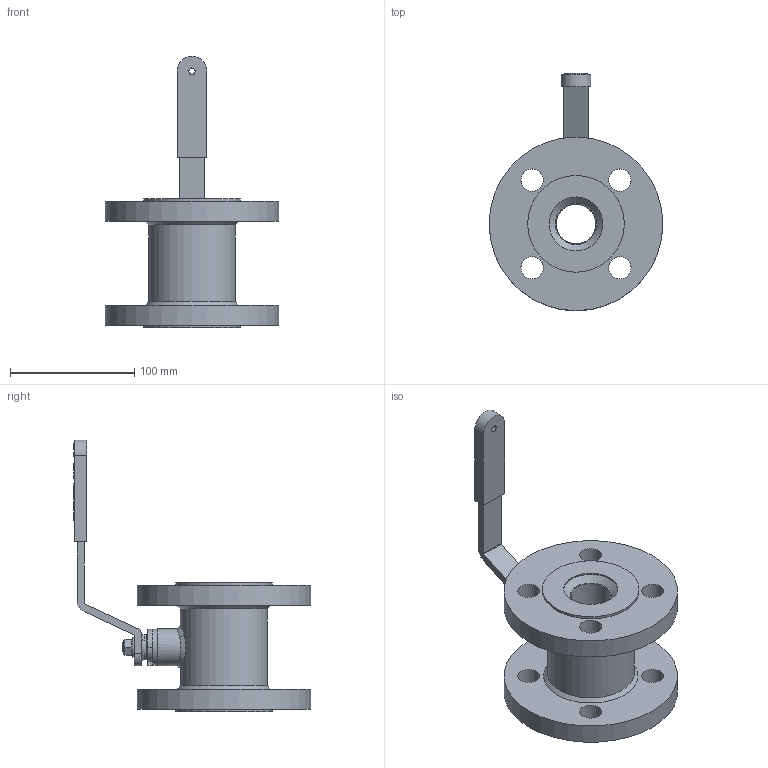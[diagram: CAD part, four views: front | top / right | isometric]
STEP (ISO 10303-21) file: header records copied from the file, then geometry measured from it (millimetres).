
FILE_DESCRIPTION(/* description */ (''),/* implementation_level */ '2;1');
FILE_NAME(/* name */ 'S:\Rysunki Konstrukcyjne\Dokumenty konstrukcyjne INVENTOR\Modele kooperacyjne\Rys. handlowe 31.10.2017 M. Moryto\32.21k.000.B1-10-40.00.stp',/* time_stamp */ '2017-10-31T11:04:10+01:00',/* author */ ('konstruktor1'),/* organization */ (''),/* preprocessor_version */ 'ST-DEVELOPER v15.6',/* originating_system */ 'Autodesk Inventor 2015',/* authorisation */ '');
FILE_SCHEMA (('AUTOMOTIVE_DESIGN { 1 0 10303 214 3 1 1 }'));
Length unit declared in the file: centimetre
Products named in the file (1): 32.21k.000.B1-10-40.00
Bounding box: 140 x 191.4 x 219 mm (x, y, z)
Volume: 635333.9 mm3; surface area: 149400 mm2
Topology: 1 solids, 12 shells, 568 faces, 1496 edges, 982 vertices
Faces by surface type: plane 435, cylinder 96, cone 28, bspline 6, sphere 3
Full cylindrical faces by diameter (mm): 1.7 x2, 5 x1, 8 x1, 8.4 x1, 14 x4, 14.5 x1, 16 x1, 18 x9, 18.5 x1, 19 x3, 20 x2, 22.5 x4, 23 x2, 29 x1, 30 x1, 32 x3, 33 x2, 43.5 x2, 50 x2, 60 x2, 62 x1, 70 x3, 78 x2, 140 x2
Entity records: 21162 total; most frequent: CARTESIAN_POINT 6722, ORIENTED_EDGE 2786, DIRECTION 2743, EDGE_CURVE 1391, LINE 1057, VECTOR 1057, VERTEX_POINT 950, AXIS2_PLACEMENT_3D 843
